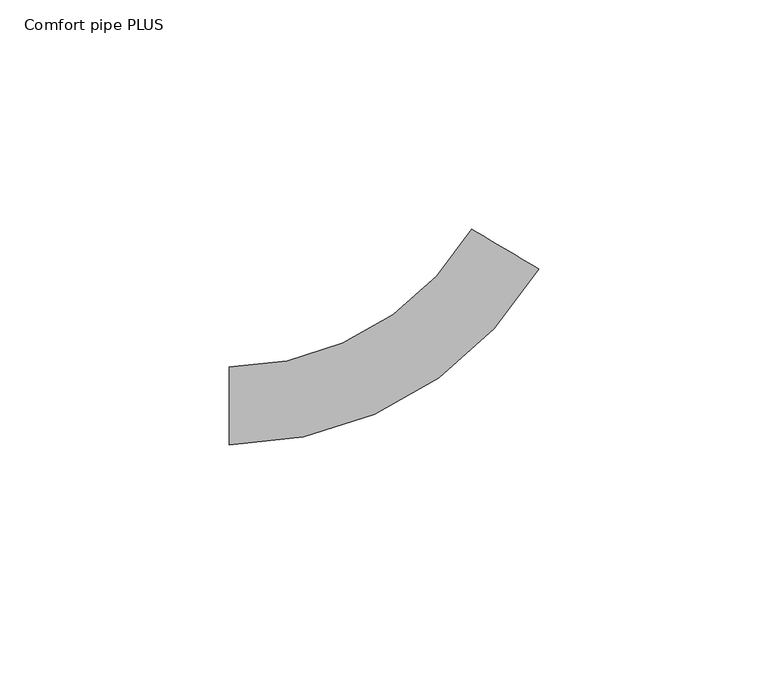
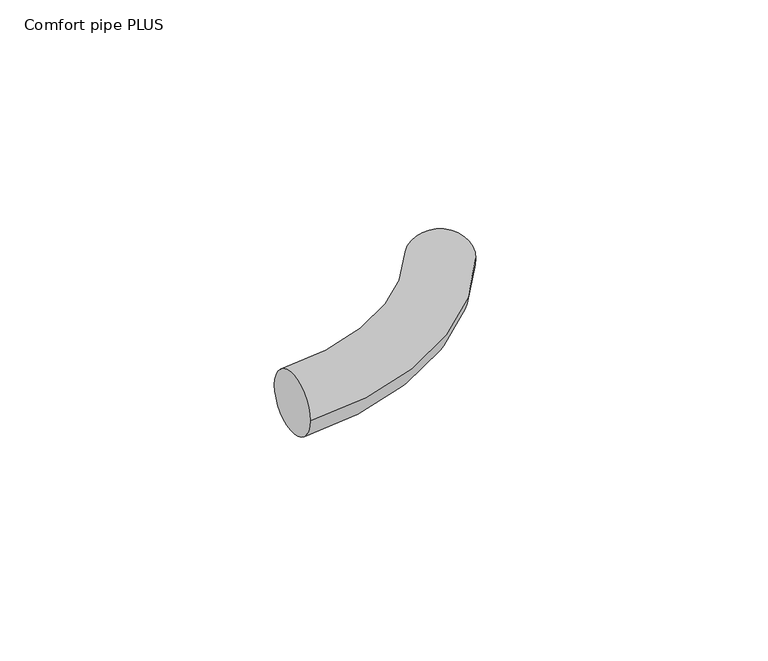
"""IFC4 building model written with IfcOpenShell, lengths in millimetres: pipe fitting geometry, 400_5-_Uponor_curved_Elbow : Comfort pipe PLUS."""

from ifc_helpers import new_model, si_unit, point, frame, origin, place, context, project, spatial, circle_curve, ellipse_curve, trimmed, source, transform, mapped, element, save
from ifc_brep_helpers import plane_surface, revolved_surface, advanced_brep


def comfort_pipe_plus_d528e45b(model_context):
    return source(origin(), model_context, "Body", "AdvancedBrep", [
        advanced_brep(
        [(-39.8266448, -8.5, 0.0), (-39.8266448, 8.5, 0.0), (27.6546871, 29.8936434, 0.0), (13.0408955, 38.5790964, 0.0)],
        [
            (0, 1, circle_curve(frame((-39.8266448, 0.0, 0.0), z_axis=(-1.0, 0.0, 0.0), x_axis=(0.0, 1.0, 0.0)), 8.5)),
            (1, 0, circle_curve(frame((-39.8266448, 0.0, 0.0), z_axis=(-1.0, 0.0, 0.0), x_axis=(0.0, 1.0, 0.0)), 8.5)),
            (2, 3, circle_curve(frame((20.3477913, 34.2363699, 0.0), z_axis=(0.5109090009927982, 0.8596348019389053, 0.0), x_axis=(-0.8596348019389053, 0.5109090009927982, 0.0)), 8.5)),
            (3, 2, circle_curve(frame((20.3477913, 34.2363699, 0.0), z_axis=(0.5109090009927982, 0.8596348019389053, 0.0), x_axis=(-0.8596348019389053, 0.5109090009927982, 0.0)), 8.5)),
            (3, 1, circle_curve(frame((-39.8266448, 70.0, 0.0), z_axis=(0.0, 0.0, -1.0), x_axis=(0.0, -1.0, 0.0)), 61.5)),
            (0, 2, circle_curve(frame((-39.8266448, 70.0, 0.0), z_axis=(0.0, 0.0, 1.0), x_axis=(0.0, -1.0, 0.0)), 78.5)),
        ],
        [
            plane_surface(frame((-39.8266448, 0.0, 0.0), z_axis=(-1.0, 0.0, 0.0), x_axis=(0.0, 0.0, 1.0))),
            plane_surface(frame((20.3477913, 34.2363699, 0.0), z_axis=(0.5109090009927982, 0.8596348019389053, 0.0), x_axis=(0.0, 0.0, 1.0))),
            revolved_surface(trimmed(ellipse_curve(frame((-39.8266448, 0.0, 0.0), z_axis=(-1.0, 0.0, 0.0), x_axis=(0.0, 1.0, 0.0)), 8.5, 8.5), [point((-39.8266448, -8.5, 0.0))], [point((-39.8266448, 8.5, 0.0))], True, "CARTESIAN"), (-39.8266448, 70.0, 0.0), (0.0, 0.0, 1.0)),
            revolved_surface(trimmed(ellipse_curve(frame((-39.8266448, 0.0, 0.0), z_axis=(-1.0, 0.0, 0.0), x_axis=(0.0, 1.0, 0.0)), 8.5, 8.5), [point((-39.8266448, 8.5, 0.0))], [point((-39.8266448, -8.5, 0.0))], True, "CARTESIAN"), (-39.8266448, 70.0, 0.0), (0.0, 0.0, 1.0)),
        ],
        [
            (0, [[1, 2]]),
            (1, [[3, 4]]),
            (2, [[5, -1, 6, -4]]),
            (3, [[-6, -2, -5, -3]]),
        ],
    ),
    ])


if __name__ == "__main__":
    model = new_model("IFC4")
    model_context = context("Model", 3, world=origin())
    ifc_project = project(units=[si_unit("LENGTHUNIT", "METRE", prefix="MILLI")], contexts=[model_context])
    site = spatial("IfcSite", under=ifc_project)
    building = spatial("IfcBuilding", under=site)
    placement = place(None, origin())
    comfort_pipe_plus_shape = comfort_pipe_plus_d528e45b(model_context)
    element("IfcPipeFitting", 1, ObjectType="400_5-_Uponor_curved_Elbow : Comfort pipe PLUS", at=placement, inside=building, context=model_context, shape_type="MappedRepresentation", body=[
        mapped(comfort_pipe_plus_shape, transform((0.0, 0.0, 0.0), x_axis=(1.0, 0.0, 0.0), y_axis=(0.0, 1.0, 0.0), z_axis=(0.0, 0.0, 1.0))),
    ])
    save(model, "model.ifc")
